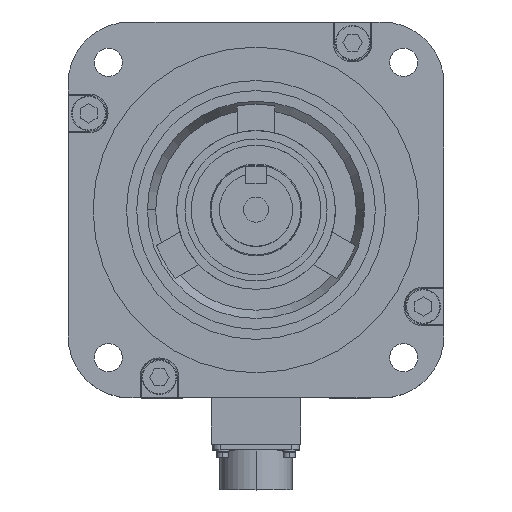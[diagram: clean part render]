
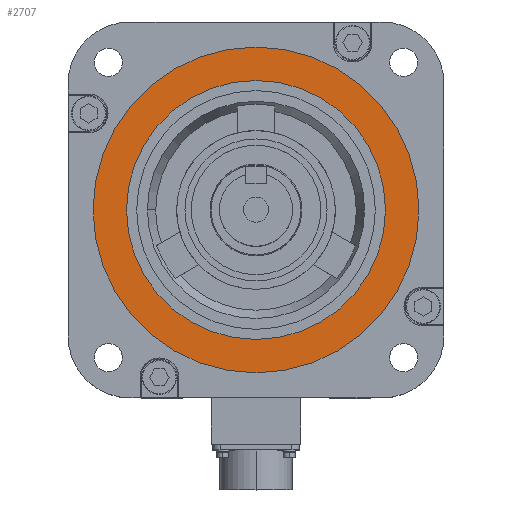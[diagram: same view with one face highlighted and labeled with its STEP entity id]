
A CAD part, top view. The second image highlights one B-rep face of the part: STEP entity #2707.
In plain terms, the highlighted planar face has unit normal (0, 0, 1).
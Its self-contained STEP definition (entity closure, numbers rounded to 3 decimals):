
#2247 = EDGE_CURVE ( 'NONE', #2779, #2918, #10151, .T. ) ;
#2315 = VERTEX_POINT ( 'NONE', #10266 ) ;
#2707 = ADVANCED_FACE ( 'NONE', ( #10929, #10928 ), #10925, .T. ) ;
#2737 = EDGE_CURVE ( 'NONE', #2315, #2953, #11026, .T. ) ;
#2779 = VERTEX_POINT ( 'NONE', #11083 ) ;
#2918 = VERTEX_POINT ( 'NONE', #11301 ) ;
#2953 = VERTEX_POINT ( 'NONE', #11380 ) ;
#4089 = ORIENTED_EDGE ( 'NONE', *, *, #2247, .F. ) ;
#4091 = EDGE_CURVE ( 'NONE', #2918, #2779, #14269, .T. ) ;
#4095 = EDGE_LOOP ( 'NONE', ( #4104, #4089 ) ) ;
#4104 = ORIENTED_EDGE ( 'NONE', *, *, #4091, .F. ) ;
#4134 = ORIENTED_EDGE ( 'NONE', *, *, #2737, .T. ) ;
#4137 = EDGE_LOOP ( 'NONE', ( #4140, #4134 ) ) ;
#4140 = ORIENTED_EDGE ( 'NONE', *, *, #4142, .T. ) ;
#4142 = EDGE_CURVE ( 'NONE', #2953, #2315, #14323, .T. ) ;
#10146 = DIRECTION ( 'NONE',  ( 1., 0., 0. ) ) ;
#10147 = DIRECTION ( 'NONE',  ( 0., 0., 1. ) ) ;
#10149 = CARTESIAN_POINT ( 'NONE',  ( 0., 0., -0.5 ) ) ;
#10150 = AXIS2_PLACEMENT_3D ( 'NONE', #10149, #10147, #10146 ) ;
#10151 = CIRCLE ( 'NONE', #10150, 62. ) ;
#10266 = CARTESIAN_POINT ( 'NONE',  ( -78., 0., -0.5 ) ) ;
#10920 = DIRECTION ( 'NONE',  ( 1., 0., 0. ) ) ;
#10921 = DIRECTION ( 'NONE',  ( 0., 0., 1. ) ) ;
#10923 = CARTESIAN_POINT ( 'NONE',  ( 0., 0., -0.5 ) ) ;
#10924 = AXIS2_PLACEMENT_3D ( 'NONE', #10923, #10921, #10920 ) ;
#10925 = PLANE ( 'NONE',  #10924 ) ;
#10928 = FACE_BOUND ( 'NONE', #4095, .T. ) ;
#10929 = FACE_OUTER_BOUND ( 'NONE', #4137, .T. ) ;
#11022 = DIRECTION ( 'NONE',  ( 1., 0., 0. ) ) ;
#11023 = DIRECTION ( 'NONE',  ( 0., 0., 1. ) ) ;
#11024 = CARTESIAN_POINT ( 'NONE',  ( 0., 0., -0.5 ) ) ;
#11025 = AXIS2_PLACEMENT_3D ( 'NONE', #11024, #11023, #11022 ) ;
#11026 = CIRCLE ( 'NONE', #11025, 78. ) ;
#11083 = CARTESIAN_POINT ( 'NONE',  ( 62., 0., -0.5 ) ) ;
#11301 = CARTESIAN_POINT ( 'NONE',  ( -62., 0., -0.5 ) ) ;
#11380 = CARTESIAN_POINT ( 'NONE',  ( 78., 0., -0.5 ) ) ;
#14264 = DIRECTION ( 'NONE',  ( 1., 0., 0. ) ) ;
#14266 = DIRECTION ( 'NONE',  ( 0., 0., 1. ) ) ;
#14267 = CARTESIAN_POINT ( 'NONE',  ( 0., 0., -0.5 ) ) ;
#14268 = AXIS2_PLACEMENT_3D ( 'NONE', #14267, #14266, #14264 ) ;
#14269 = CIRCLE ( 'NONE', #14268, 62. ) ;
#14319 = DIRECTION ( 'NONE',  ( 1., 0., 0. ) ) ;
#14320 = DIRECTION ( 'NONE',  ( 0., 0., 1. ) ) ;
#14321 = CARTESIAN_POINT ( 'NONE',  ( 0., 0., -0.5 ) ) ;
#14322 = AXIS2_PLACEMENT_3D ( 'NONE', #14321, #14320, #14319 ) ;
#14323 = CIRCLE ( 'NONE', #14322, 78. ) ;
